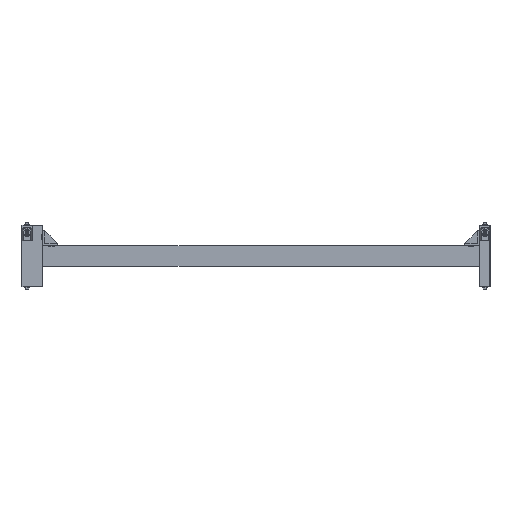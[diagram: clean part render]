
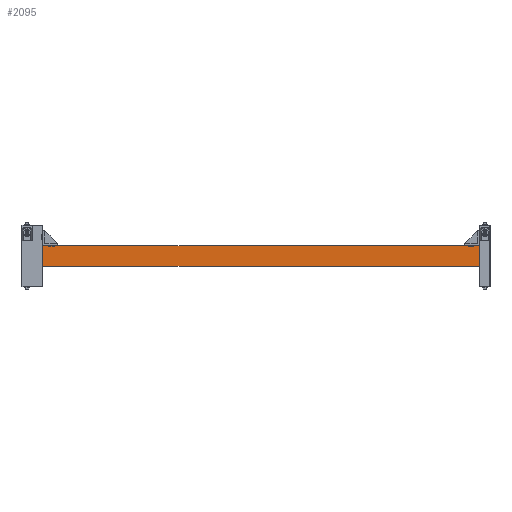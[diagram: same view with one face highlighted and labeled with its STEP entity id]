
A CAD part, left-side view. The second image highlights one B-rep face of the part: STEP entity #2095.
In plain terms, the highlighted planar face has unit normal (-1, 0, 0).
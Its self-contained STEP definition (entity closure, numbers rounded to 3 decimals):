
#2095=ADVANCED_FACE('',(#3178),#29838,.T.);
#3178=FACE_OUTER_BOUND('',#4245,.T.);
#4245=EDGE_LOOP('',(#8206,#8207,#8208,#8209));
#8206=ORIENTED_EDGE('',*,*,#26320,.F.);
#8207=ORIENTED_EDGE('',*,*,#26324,.T.);
#8208=ORIENTED_EDGE('',*,*,#26325,.T.);
#8209=ORIENTED_EDGE('',*,*,#26326,.T.);
#13346=B_SPLINE_CURVE_WITH_KNOTS('',1,(#56552,#56553),.UNSPECIFIED.,.F.,
 .F.,(2,2),(-1940.,-990.),.UNSPECIFIED.);
#13347=B_SPLINE_CURVE_WITH_KNOTS('',1,(#56554,#56555),.UNSPECIFIED.,.F.,
 .F.,(2,2),(-1940.,-990.),.UNSPECIFIED.);
#13354=B_SPLINE_CURVE_WITH_KNOTS('',1,(#56568,#56569),.UNSPECIFIED.,.F.,
 .F.,(2,2),(-1940.,-990.),.UNSPECIFIED.);
#13355=B_SPLINE_CURVE_WITH_KNOTS('',1,(#56570,#56571),.UNSPECIFIED.,.F.,
 .F.,(2,2),(0.,20.),.UNSPECIFIED.);
#13356=B_SPLINE_CURVE_WITH_KNOTS('',1,(#56572,#56573),.UNSPECIFIED.,.F.,
 .F.,(2,2),(0.,20.),.UNSPECIFIED.);
#13357=B_SPLINE_CURVE_WITH_KNOTS('',1,(#56574,#56575),.UNSPECIFIED.,.F.,
 .F.,(2,2),(-1940.,-990.),.UNSPECIFIED.);
#13358=B_SPLINE_CURVE_WITH_KNOTS('',1,(#56576,#56577),.UNSPECIFIED.,.F.,
 .F.,(2,2),(-1940.,-990.),.UNSPECIFIED.);
#13359=B_SPLINE_CURVE_WITH_KNOTS('',1,(#56578,#56579),.UNSPECIFIED.,.F.,
 .F.,(2,2),(-20.,0.),.UNSPECIFIED.);
#13360=B_SPLINE_CURVE_WITH_KNOTS('',1,(#56580,#56581),.UNSPECIFIED.,.F.,
 .F.,(2,2),(-20.,0.),.UNSPECIFIED.);
#13367=B_SPLINE_CURVE_WITH_KNOTS('',1,(#56594,#56595),.UNSPECIFIED.,.F.,
 .F.,(2,2),(-1940.,-990.),.UNSPECIFIED.);
#13369=B_SPLINE_CURVE_WITH_KNOTS('',1,(#56598,#56599),.UNSPECIFIED.,.F.,
 .F.,(2,2),(-20.,0.),.UNSPECIFIED.);
#13380=B_SPLINE_CURVE_WITH_KNOTS('',1,(#56620,#56621),.UNSPECIFIED.,.F.,
 .F.,(2,2),(0.,20.),.UNSPECIFIED.);
#17668=PCURVE('',#29837,#21900);
#17672=PCURVE('',#29838,#21904);
#17673=PCURVE('',#29838,#21905);
#17674=PCURVE('',#29838,#21906);
#17675=PCURVE('',#29838,#21907);
#17679=PCURVE('',#29839,#21911);
#17681=PCURVE('',#29840,#21913);
#17690=PCURVE('',#29842,#21922);
#21900=DEFINITIONAL_REPRESENTATION('',(#13347),#58921);
#21904=DEFINITIONAL_REPRESENTATION('',(#13354),#58921);
#21905=DEFINITIONAL_REPRESENTATION('',(#13356),#58921);
#21906=DEFINITIONAL_REPRESENTATION('',(#13358),#58921);
#21907=DEFINITIONAL_REPRESENTATION('',(#13360),#58921);
#21911=DEFINITIONAL_REPRESENTATION('',(#13367),#58921);
#21913=DEFINITIONAL_REPRESENTATION('',(#13369),#58921);
#21922=DEFINITIONAL_REPRESENTATION('',(#13380),#58921);
#24204=SURFACE_CURVE('',#13346,(#17668,#17672),.PCURVE_S1.);
#24208=SURFACE_CURVE('',#13355,(#17673,#17690),.PCURVE_S1.);
#24209=SURFACE_CURVE('',#13357,(#17674,#17679),.PCURVE_S1.);
#24210=SURFACE_CURVE('',#13359,(#17675,#17681),.PCURVE_S1.);
#26320=EDGE_CURVE('',#28867,#28869,#24204,.T.);
#26324=EDGE_CURVE('',#28867,#28868,#24208,.T.);
#26325=EDGE_CURVE('',#28868,#28872,#24209,.T.);
#26326=EDGE_CURVE('',#28872,#28869,#24210,.T.);
#28867=VERTEX_POINT('',#56544);
#28868=VERTEX_POINT('',#56545);
#28869=VERTEX_POINT('',#56546);
#28872=VERTEX_POINT('',#56549);
#29837=PLANE('',#30701);
#29838=PLANE('',#30702);
#29839=PLANE('',#30703);
#29840=PLANE('',#30704);
#29842=PLANE('',#30706);
#30701=AXIS2_PLACEMENT_3D('',#56538,#31446,$);
#30702=AXIS2_PLACEMENT_3D('',#56539,#31447,$);
#30703=AXIS2_PLACEMENT_3D('',#56540,#31448,$);
#30704=AXIS2_PLACEMENT_3D('',#56541,#31449,$);
#30706=AXIS2_PLACEMENT_3D('',#56543,#31451,$);
#31446=DIRECTION('',(0.,0.,-1.));
#31447=DIRECTION('',(-1.,0.,0.));
#31448=DIRECTION('',(0.,0.,1.));
#31449=DIRECTION('',(0.,1.,0.));
#31451=DIRECTION('',(0.,-1.,0.));
#56538=CARTESIAN_POINT('',(-650.,-544.,-120.));
#56539=CARTESIAN_POINT('',(-650.,-544.,-120.));
#56540=CARTESIAN_POINT('',(-650.,-544.,-80.));
#56541=CARTESIAN_POINT('',(-650.,314.,-120.));
#56543=CARTESIAN_POINT('',(-630.,-544.,-120.));
#56544=CARTESIAN_POINT('',(-650.,-544.,-120.));
#56545=CARTESIAN_POINT('',(-650.,-544.,-80.));
#56546=CARTESIAN_POINT('',(-650.,314.,-120.));
#56549=CARTESIAN_POINT('',(-650.,314.,-80.));
#56552=CARTESIAN_POINT('',(-650.,-544.,-120.));
#56553=CARTESIAN_POINT('',(-650.,314.,-120.));
#56554=CARTESIAN_POINT('',(0.,0.));
#56555=CARTESIAN_POINT('',(950.,0.));
#56568=CARTESIAN_POINT('',(0.,-1940.));
#56569=CARTESIAN_POINT('',(0.,-990.));
#56570=CARTESIAN_POINT('',(-650.,-544.,-120.));
#56571=CARTESIAN_POINT('',(-650.,-544.,-80.));
#56572=CARTESIAN_POINT('',(0.,-1940.));
#56573=CARTESIAN_POINT('',(20.,-1940.));
#56574=CARTESIAN_POINT('',(-650.,-544.,-80.));
#56575=CARTESIAN_POINT('',(-650.,314.,-80.));
#56576=CARTESIAN_POINT('',(20.,-1940.));
#56577=CARTESIAN_POINT('',(20.,-990.));
#56578=CARTESIAN_POINT('',(-650.,314.,-80.));
#56579=CARTESIAN_POINT('',(-650.,314.,-120.));
#56580=CARTESIAN_POINT('',(20.,-990.));
#56581=CARTESIAN_POINT('',(0.,-990.));
#56594=CARTESIAN_POINT('',(0.,0.));
#56595=CARTESIAN_POINT('',(0.,950.));
#56598=CARTESIAN_POINT('',(20.,-990.));
#56599=CARTESIAN_POINT('',(0.,-990.));
#56620=CARTESIAN_POINT('',(0.,0.));
#56621=CARTESIAN_POINT('',(20.,0.));
#58921=(
GEOMETRIC_REPRESENTATION_CONTEXT(2)
PARAMETRIC_REPRESENTATION_CONTEXT()
REPRESENTATION_CONTEXT('pspace','')
);
